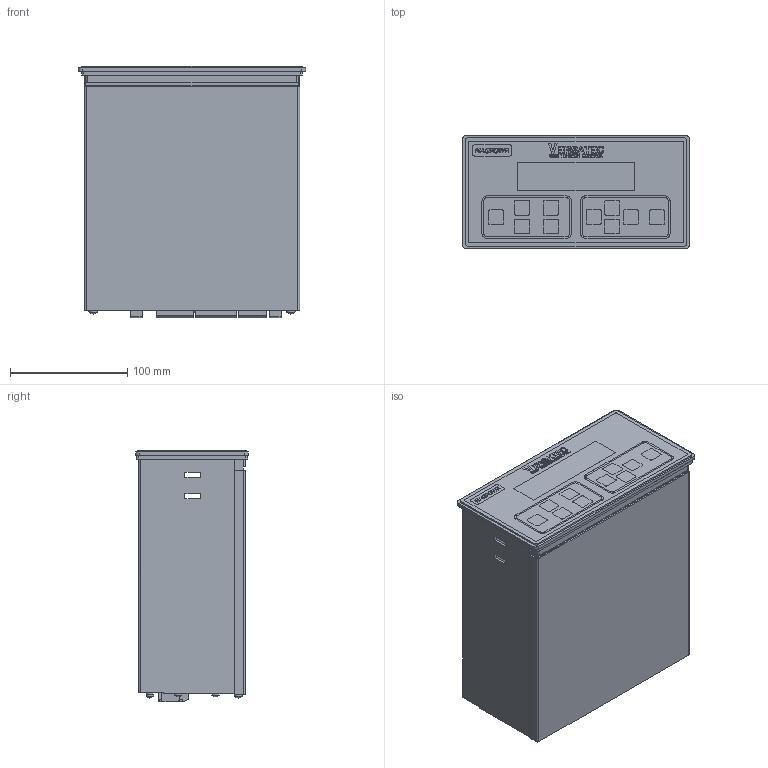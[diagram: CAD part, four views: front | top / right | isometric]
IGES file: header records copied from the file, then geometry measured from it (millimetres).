
Global section: file name: No Iges File Name specified; native system: Autodesk Inventor 2012; preprocessor: AutoDesk Inventor Iges Exporter R2012; author: lzuniga; date: 20121004.143210; units: inch
Bounding box: 193.55 x 96.27 x 214.35 mm (x, y, z)
Volume: 306554.5 mm3; surface area: 296627.5 mm2
Topology: 1 solids, 1 shells, 953 faces, 2471 edges, 1647 vertices
Faces by surface type: bspline 953
